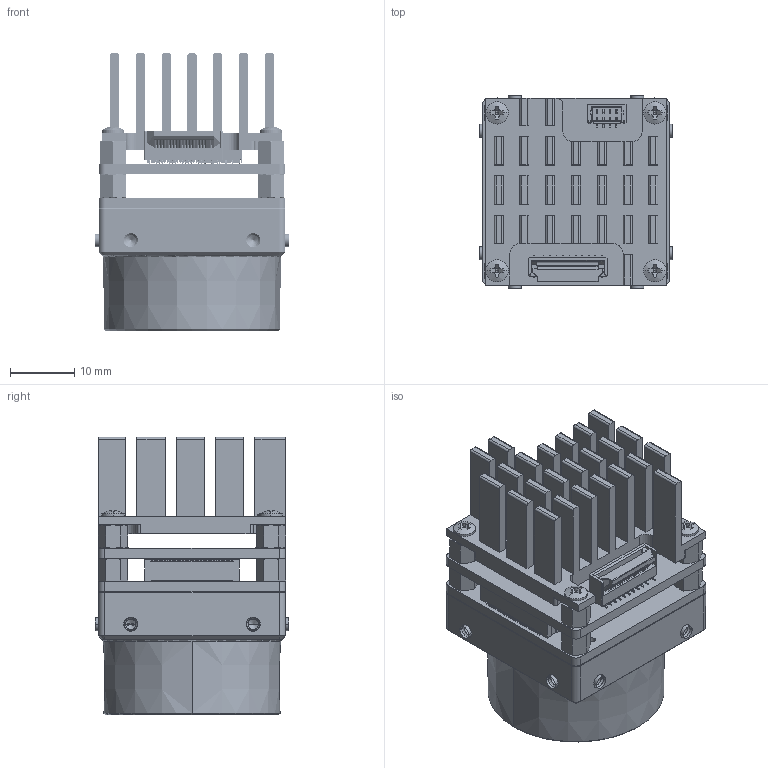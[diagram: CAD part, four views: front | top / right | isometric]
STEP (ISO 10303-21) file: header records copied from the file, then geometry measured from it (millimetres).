
FILE_DESCRIPTION((''),'2;1');
FILE_NAME('MV-CB050-60UMUC-C-F','2026-03-03T15:22:37',('wangyijun6'),(''),'CREO PARAMETRIC BY PTC INC, 2020044','CREO PARAMETRIC BY PTC INC, 2020044','');
FILE_SCHEMA(('CONFIG_CONTROL_DESIGN'));
Length unit declared in the file: millimetre
Products named in the file (1): MV-CB050-60UMUC-C-F
Bounding box: 30 x 30 x 43.04 mm (x, y, z)
Volume: 1943.1 mm3; surface area: 19605.4 mm2
Topology: 4 solids, 71 shells, 7995 faces, 23919 edges, 15983 vertices
Faces by surface type: plane 5164, cylinder 2447, cone 238, bspline 108, torus 34, sphere 4
Entity records: 277371 total; most frequent: CARTESIAN_POINT 58669, ORIENTED_EDGE 46918, DIRECTION 44555, EDGE_CURVE 23871, VECTOR 16817, LINE 16817, VERTEX_POINT 15983, AXIS2_PLACEMENT_3D 13869
